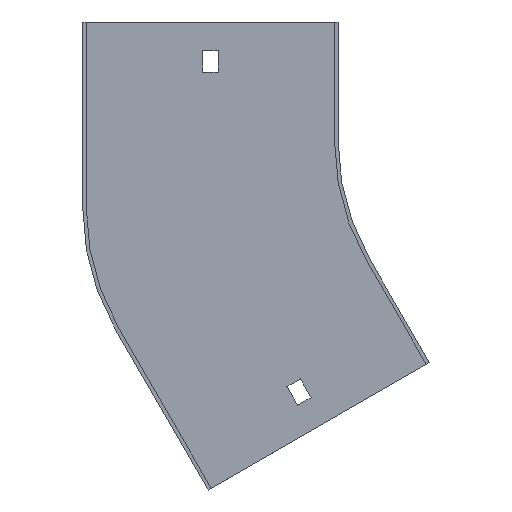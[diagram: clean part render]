
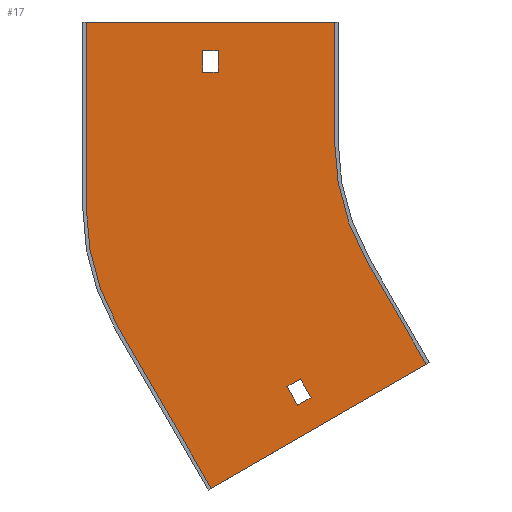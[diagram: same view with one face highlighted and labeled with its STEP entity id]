
A CAD part, front view. The second image highlights one B-rep face of the part: STEP entity #17.
In plain terms, the highlighted planar face has unit normal (0, -1, 0).
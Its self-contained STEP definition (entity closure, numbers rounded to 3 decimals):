
#3 = LINE ( 'NONE', #452, #334 ) ;
#4 = DIRECTION ( 'NONE',  ( -0.5, 0., 0.866 ) ) ;
#8 = CIRCLE ( 'NONE', #402, 100. ) ;
#10 = VERTEX_POINT ( 'NONE', #618 ) ;
#17 = ADVANCED_FACE ( 'NONE', ( #430, #156, #622 ), #296, .T. ) ;
#22 = AXIS2_PLACEMENT_3D ( 'NONE', #97, #569, #764 ) ;
#27 = EDGE_LOOP ( 'NONE', ( #162, #316, #225, #821 ) ) ;
#32 = CARTESIAN_POINT ( 'NONE',  ( -104., -1.5, -27.867 ) ) ;
#45 = VERTEX_POINT ( 'NONE', #89 ) ;
#46 = VECTOR ( 'NONE', #572, 1000. ) ;
#48 = LINE ( 'NONE', #324, #827 ) ;
#67 = VERTEX_POINT ( 'NONE', #220 ) ;
#70 = LINE ( 'NONE', #675, #585 ) ;
#75 = CARTESIAN_POINT ( 'NONE',  ( 19., -1.5, -32.909 ) ) ;
#89 = CARTESIAN_POINT ( 'NONE',  ( -204., -1.5, -27.867 ) ) ;
#93 = CARTESIAN_POINT ( 'NONE',  ( 0., -1.5, 38. ) ) ;
#97 = CARTESIAN_POINT ( 'NONE',  ( 0., -1.5, 0. ) ) ;
#100 = LINE ( 'NONE', #373, #567 ) ;
#105 = LINE ( 'NONE', #642, #278 ) ;
#108 = VERTEX_POINT ( 'NONE', #374 ) ;
#119 = CARTESIAN_POINT ( 'NONE',  ( -190.603, -1.5, -77.867 ) ) ;
#123 = CARTESIAN_POINT ( 'NONE',  ( -148.75, -1.5, 38. ) ) ;
#130 = EDGE_CURVE ( 'NONE', #312, #624, #513, .T. ) ;
#136 = VECTOR ( 'NONE', #407, 1000. ) ;
#150 = CARTESIAN_POINT ( 'NONE',  ( -151.669, -1.5, -145.301 ) ) ;
#156 = FACE_OUTER_BOUND ( 'NONE', #379, .T. ) ;
#157 = ORIENTED_EDGE ( 'NONE', *, *, #482, .F. ) ;
#162 = ORIENTED_EDGE ( 'NONE', *, *, #463, .F. ) ;
#185 = DIRECTION ( 'NONE',  ( -0.5, 0., 0.866 ) ) ;
#187 = DIRECTION ( 'NONE',  ( -1., 0., 0. ) ) ;
#190 = VECTOR ( 'NONE', #198, 1000. ) ;
#195 = VERTEX_POINT ( 'NONE', #119 ) ;
#198 = DIRECTION ( 'NONE',  ( 0., 0., 1. ) ) ;
#201 = ORIENTED_EDGE ( 'NONE', *, *, #214, .F. ) ;
#213 = ORIENTED_EDGE ( 'NONE', *, *, #704, .F. ) ;
#214 = EDGE_CURVE ( 'NONE', #365, #195, #441, .T. ) ;
#218 = VERTEX_POINT ( 'NONE', #123 ) ;
#220 = CARTESIAN_POINT ( 'NONE',  ( -100., -1.5, 50. ) ) ;
#225 = ORIENTED_EDGE ( 'NONE', *, *, #301, .F. ) ;
#235 = EDGE_LOOP ( 'NONE', ( #754, #695, #689, #541 ) ) ;
#239 = VERTEX_POINT ( 'NONE', #660 ) ;
#240 = EDGE_CURVE ( 'NONE', #859, #67, #603, .T. ) ;
#260 = CARTESIAN_POINT ( 'NONE',  ( -205.5, -1.5, 50. ) ) ;
#265 = DIRECTION ( 'NONE',  ( 0., 0., -1. ) ) ;
#268 = EDGE_CURVE ( 'NONE', #108, #239, #607, .T. ) ;
#273 = LINE ( 'NONE', #328, #303 ) ;
#274 = DIRECTION ( 'NONE',  ( 0.5, 0., -0.866 ) ) ;
#278 = VECTOR ( 'NONE', #185, 1000. ) ;
#295 = LINE ( 'NONE', #93, #813 ) ;
#296 = PLANE ( 'NONE',  #22 ) ;
#301 = EDGE_CURVE ( 'NONE', #239, #825, #70, .T. ) ;
#303 = VECTOR ( 'NONE', #734, 1000. ) ;
#312 = VERTEX_POINT ( 'NONE', #475 ) ;
#316 = ORIENTED_EDGE ( 'NONE', *, *, #852, .F. ) ;
#317 = AXIS2_PLACEMENT_3D ( 'NONE', #340, #862, #265 ) ;
#324 = CARTESIAN_POINT ( 'NONE',  ( -204., -1.5, -27.867 ) ) ;
#328 = CARTESIAN_POINT ( 'NONE',  ( -100., -1.5, 50. ) ) ;
#334 = VECTOR ( 'NONE', #274, 1000. ) ;
#340 = CARTESIAN_POINT ( 'NONE',  ( 0., -1.5, 0. ) ) ;
#341 = DIRECTION ( 'NONE',  ( 0.5, 0., -0.866 ) ) ;
#365 = VERTEX_POINT ( 'NONE', #150 ) ;
#373 = CARTESIAN_POINT ( 'NONE',  ( -148.75, -1.5, 0. ) ) ;
#374 = CARTESIAN_POINT ( 'NONE',  ( -114.321, -1.5, -99.49 ) ) ;
#375 = EDGE_CURVE ( 'NONE', #10, #218, #295, .T. ) ;
#379 = EDGE_LOOP ( 'NONE', ( #794, #805, #157, #201, #686, #391, #213, #676 ) ) ;
#380 = DIRECTION ( 'NONE',  ( 0., 0., -1. ) ) ;
#391 = ORIENTED_EDGE ( 'NONE', *, *, #701, .F. ) ;
#402 = AXIS2_PLACEMENT_3D ( 'NONE', #32, #439, #380 ) ;
#407 = DIRECTION ( 'NONE',  ( -0.866, 0., -0.5 ) ) ;
#430 = FACE_BOUND ( 'NONE', #27, .T. ) ;
#436 = EDGE_CURVE ( 'NONE', #449, #365, #709, .T. ) ;
#439 = DIRECTION ( 'NONE',  ( 0., 1., 0. ) ) ;
#441 = LINE ( 'NONE', #666, #625 ) ;
#449 = VERTEX_POINT ( 'NONE', #774 ) ;
#452 = CARTESIAN_POINT ( 'NONE',  ( -86.603, -1.5, -50. ) ) ;
#462 = LINE ( 'NONE', #75, #804 ) ;
#463 = EDGE_CURVE ( 'NONE', #537, #108, #105, .T. ) ;
#475 = CARTESIAN_POINT ( 'NONE',  ( -148.75, -1.5, 29. ) ) ;
#482 = EDGE_CURVE ( 'NONE', #195, #45, #8, .T. ) ;
#492 = CARTESIAN_POINT ( 'NONE',  ( -204., -1.5, 50. ) ) ;
#502 = CARTESIAN_POINT ( 'NONE',  ( 0., -1.5, 29. ) ) ;
#513 = LINE ( 'NONE', #502, #639 ) ;
#536 = CARTESIAN_POINT ( 'NONE',  ( 14.5, -1.5, -25.115 ) ) ;
#537 = VERTEX_POINT ( 'NONE', #828 ) ;
#541 = ORIENTED_EDGE ( 'NONE', *, *, #848, .T. ) ;
#550 = EDGE_CURVE ( 'NONE', #218, #312, #100, .T. ) ;
#556 = DIRECTION ( 'NONE',  ( 0.866, 0., 0.5 ) ) ;
#567 = VECTOR ( 'NONE', #637, 1000. ) ;
#569 = DIRECTION ( 'NONE',  ( 0., -1., 0. ) ) ;
#572 = DIRECTION ( 'NONE',  ( -0.866, 0., -0.5 ) ) ;
#585 = VECTOR ( 'NONE', #341, 1000. ) ;
#591 = CARTESIAN_POINT ( 'NONE',  ( -86.603, -1.5, -50. ) ) ;
#596 = DIRECTION ( 'NONE',  ( 1., 0., 0. ) ) ;
#602 = CARTESIAN_POINT ( 'NONE',  ( -100., -1.5, 0. ) ) ;
#603 = LINE ( 'NONE', #260, #838 ) ;
#607 = LINE ( 'NONE', #536, #136 ) ;
#618 = CARTESIAN_POINT ( 'NONE',  ( -155.25, -1.5, 38. ) ) ;
#622 = FACE_BOUND ( 'NONE', #235, .T. ) ;
#623 = EDGE_CURVE ( 'NONE', #67, #795, #273, .T. ) ;
#624 = VERTEX_POINT ( 'NONE', #677 ) ;
#625 = VECTOR ( 'NONE', #4, 1000. ) ;
#637 = DIRECTION ( 'NONE',  ( 0., 0., -1. ) ) ;
#639 = VECTOR ( 'NONE', #187, 1000. ) ;
#642 = CARTESIAN_POINT ( 'NONE',  ( -128.821, -1.5, -74.375 ) ) ;
#655 = DIRECTION ( 'NONE',  ( 0., 0., 1. ) ) ;
#659 = LINE ( 'NONE', #856, #190 ) ;
#660 = CARTESIAN_POINT ( 'NONE',  ( -119.95, -1.5, -102.74 ) ) ;
#666 = CARTESIAN_POINT ( 'NONE',  ( -151.669, -1.5, -145.301 ) ) ;
#675 = CARTESIAN_POINT ( 'NONE',  ( -134.45, -1.5, -77.625 ) ) ;
#676 = ORIENTED_EDGE ( 'NONE', *, *, #623, .F. ) ;
#677 = CARTESIAN_POINT ( 'NONE',  ( -155.25, -1.5, 29. ) ) ;
#686 = ORIENTED_EDGE ( 'NONE', *, *, #436, .F. ) ;
#689 = ORIENTED_EDGE ( 'NONE', *, *, #130, .T. ) ;
#695 = ORIENTED_EDGE ( 'NONE', *, *, #550, .T. ) ;
#701 = EDGE_CURVE ( 'NONE', #771, #449, #3, .T. ) ;
#704 = EDGE_CURVE ( 'NONE', #795, #771, #855, .T. ) ;
#709 = LINE ( 'NONE', #832, #46 ) ;
#711 = EDGE_CURVE ( 'NONE', #45, #859, #48, .T. ) ;
#734 = DIRECTION ( 'NONE',  ( 0., 0., -1. ) ) ;
#754 = ORIENTED_EDGE ( 'NONE', *, *, #375, .T. ) ;
#763 = DIRECTION ( 'NONE',  ( 1., 0., 0. ) ) ;
#764 = DIRECTION ( 'NONE',  ( 0., 0., -1. ) ) ;
#771 = VERTEX_POINT ( 'NONE', #591 ) ;
#774 = CARTESIAN_POINT ( 'NONE',  ( -61.603, -1.5, -93.301 ) ) ;
#788 = CARTESIAN_POINT ( 'NONE',  ( -115.45, -1.5, -110.534 ) ) ;
#794 = ORIENTED_EDGE ( 'NONE', *, *, #240, .F. ) ;
#795 = VERTEX_POINT ( 'NONE', #602 ) ;
#804 = VECTOR ( 'NONE', #556, 1000. ) ;
#805 = ORIENTED_EDGE ( 'NONE', *, *, #711, .F. ) ;
#813 = VECTOR ( 'NONE', #763, 1000. ) ;
#821 = ORIENTED_EDGE ( 'NONE', *, *, #268, .F. ) ;
#825 = VERTEX_POINT ( 'NONE', #788 ) ;
#827 = VECTOR ( 'NONE', #655, 1000. ) ;
#828 = CARTESIAN_POINT ( 'NONE',  ( -109.821, -1.5, -107.284 ) ) ;
#832 = CARTESIAN_POINT ( 'NONE',  ( -60.304, -1.5, -92.551 ) ) ;
#838 = VECTOR ( 'NONE', #596, 1000. ) ;
#848 = EDGE_CURVE ( 'NONE', #624, #10, #659, .T. ) ;
#852 = EDGE_CURVE ( 'NONE', #825, #537, #462, .T. ) ;
#855 = CIRCLE ( 'NONE', #317, 100. ) ;
#856 = CARTESIAN_POINT ( 'NONE',  ( -155.25, -1.5, 0. ) ) ;
#859 = VERTEX_POINT ( 'NONE', #492 ) ;
#862 = DIRECTION ( 'NONE',  ( 0., -1., 0. ) ) ;
